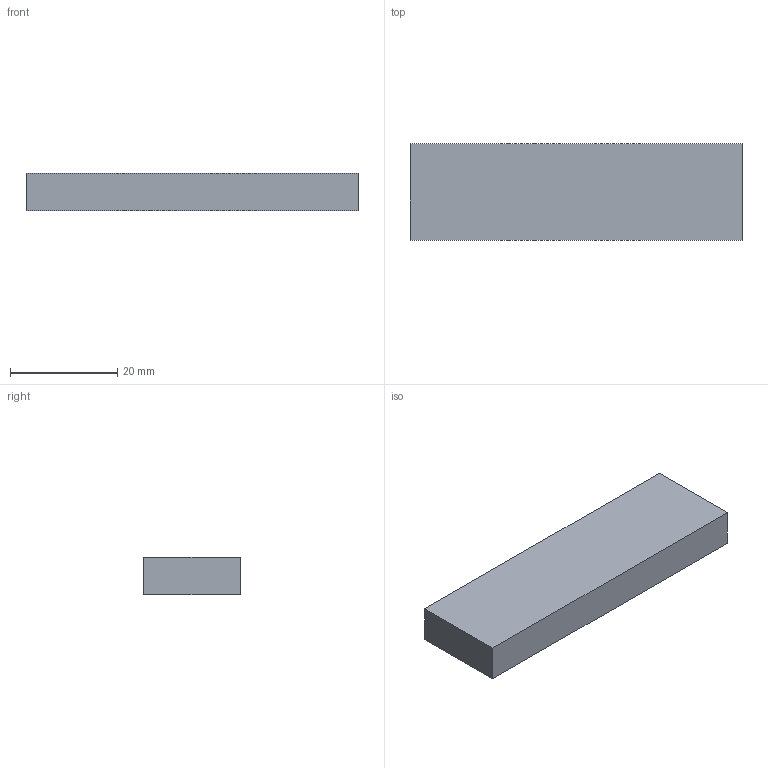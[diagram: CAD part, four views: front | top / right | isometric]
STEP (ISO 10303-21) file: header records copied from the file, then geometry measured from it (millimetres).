
FILE_DESCRIPTION(('Open CASCADE Model'),'2;1');
FILE_NAME('Open CASCADE Shape Model','2026-09-06T14:28:00',('Author'),( 'Open CASCADE'),'Open CASCADE STEP processor 7.9','Open CASCADE 7.9' ,'Unknown');
FILE_SCHEMA(('AUTOMOTIVE_DESIGN { 1 0 10303 214 1 1 1 1 }'));
Length unit declared in the file: millimetre
Products named in the file (1): Open CASCADE STEP translator 7.9 11
Bounding box: 62 x 18 x 7 mm (x, y, z)
Volume: 7645.5 mm3; surface area: 3608.4 mm2
Topology: 1 solids, 1 shells, 47 faces, 123 edges, 82 vertices
Faces by surface type: plane 46, cylinder 1
Full cylindrical faces by diameter (mm): 3.9 x1
Entity records: 2935 total; most frequent: CARTESIAN_POINT 601, DIRECTION 370, LINE 269, VECTOR 269, ORIENTED_EDGE 246, PCURVE 246, DEFINITIONAL_REPRESENTATION 246, EDGE_CURVE 123
